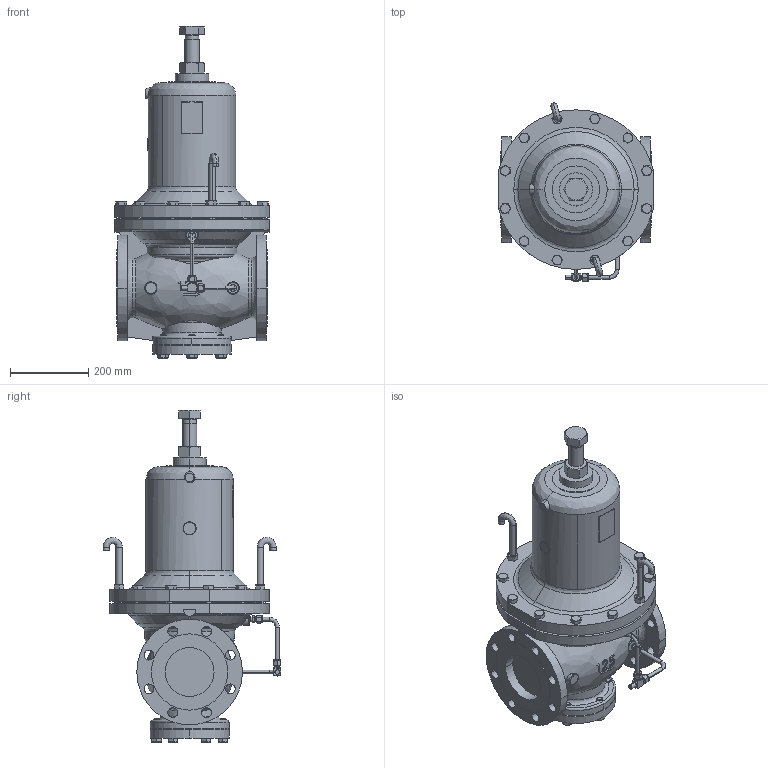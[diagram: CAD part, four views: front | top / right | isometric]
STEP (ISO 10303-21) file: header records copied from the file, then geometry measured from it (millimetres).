
FILE_DESCRIPTION( (''), '2;1');
FILE_NAME ('PC1276.9968.GD-200H 125A_25261.stp','2026-01-15T16:51:11',(''),(''),'spGate 20.6.3 (****-****-****-****)','','');
FILE_SCHEMA (('AUTOMOTIVE_DESIGN'));
Length unit declared in the file: millimetre
Products named in the file (23): Assembly; 5B本体; 5Ｂカバー; CP_''_JIS B 1180 全ネジ六角ボルト''_17166; B-600-1-4RT; SS-10M0-3; 検出管A65_M5; 検出管B65_M5; 5B保護筒; CP_''_JIS B 1180 全ネジ六角ボ''_(1)_17166; CP_''_JIS B 1180 全ネジ六角ボルト''_17167; CP_''_JIS B 1181 六角ナット 2種 上 ''_700; PC1276-prt11; PC1276-prt12; PC1276-prt13; PC1276-prt14; PC1276-prt15; PC1276-prt16; PC1276-prt17; フックボルト_M7; PC1276-prt19; CP_''_JIS B 1181 六角ナット 1種 上 ''_699; フックボルト(M16)
Assembly tree (48 placements, depth 2):
  Assembly
    5B本体
    5Ｂカバー
    CP_''_JIS B 1180 全ネジ六角ボルト''_17166  x6
    B-600-1-4RT  x2
    SS-10M0-3
    検出管A65_M5
    検出管B65_M5
    5B保護筒
    CP_''_JIS B 1180 全ネジ六角ボ''_(1)_17166  x10
    CP_''_JIS B 1180 全ネジ六角ボルト''_17167
    CP_''_JIS B 1181 六角ナット 2種 上 ''_700
    PC1276-prt11  x2
    PC1276-prt12  x2
    PC1276-prt13  x2
    PC1276-prt14  x2
    PC1276-prt15  x2
    PC1276-prt16  x2
    PC1276-prt17  x2
    フックボルト_M7  x2
    PC1276-prt19  x2
    CP_''_JIS B 1181 六角ナット 1種 上 ''_699  x2
    フックボルト(M16)  x2
Bounding box: 395 x 454.96 x 849.1 mm (x, y, z)
Volume: 38812585.8 mm3; surface area: 1604462.2 mm2
Topology: 32 solids, 32 shells, 1011 faces, 2286 edges, 1431 vertices
Faces by surface type: plane 375, bspline 356, cylinder 280
Entity records: 32499 total; most frequent: CARTESIAN_POINT 8328, ORIENTED_EDGE 2756, DIRECTION 2375, COLOUR_RGB 1987, PRESENTATION_STYLE_ASSIGNMENT 1987, STYLED_ITEM 1987, DRAUGHTING_PRE_DEFINED_CURVE_FONT 1386, CURVE_STYLE 1386
